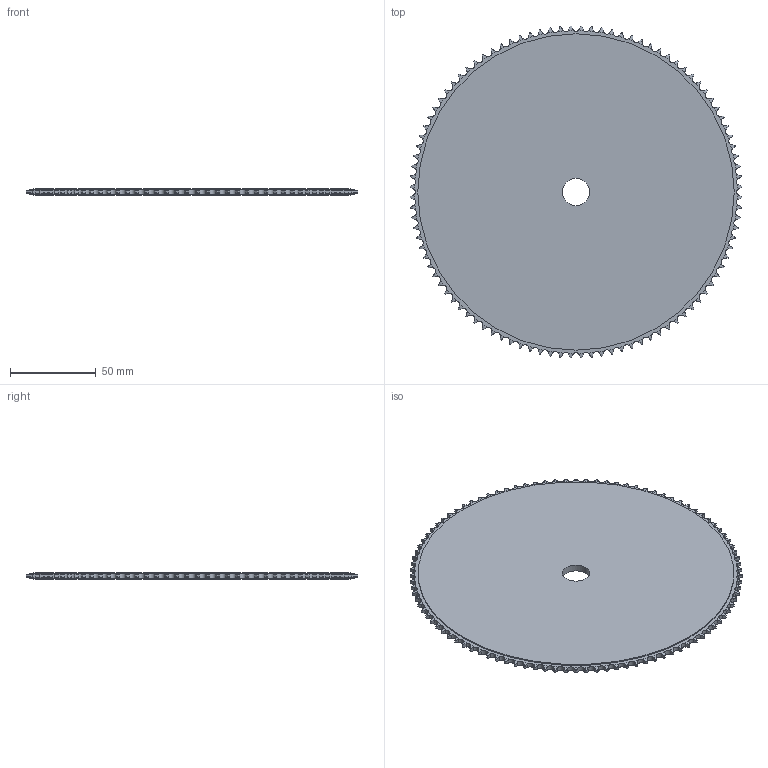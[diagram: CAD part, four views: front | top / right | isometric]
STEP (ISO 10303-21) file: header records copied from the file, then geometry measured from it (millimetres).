
FILE_DESCRIPTION((''),'2;1');
FILE_NAME('500-061-0100_PRT','2021-02-12T',('Brieden'),('Brieden'),'PRO/ENGINEER BY PARAMETRIC TECHNOLOGY CORPORATION, 2010160','PRO/ENGINEER BY PARAMETRIC TECHNOLOGY CORPORATION, 2010160','');
FILE_SCHEMA(('AUTOMOTIVE_DESIGN { 1 0 10303 214 1 1 1 1 }'));
Length unit declared in the file: millimetre
Products named in the file (1): 500-061-0100_PRT
Bounding box: 193.04 x 193.04 x 4 mm (x, y, z)
Volume: 109435.5 mm3; surface area: 58993.6 mm2
Topology: 1 solids, 1 shells, 610 faces, 1818 edges, 1212 vertices
Faces by surface type: cylinder 406, torus 200, plane 4
Entity records: 28610 total; most frequent: CARTESIAN_POINT 7671, ORIENTED_EDGE 3636, DIRECTION 2850, PRESENTATION_STYLE_ASSIGNMENT 1819, STYLED_ITEM 1819, CURVE_STYLE 1818, EDGE_CURVE 1818, AXIS2_PLACEMENT_3D 1222
